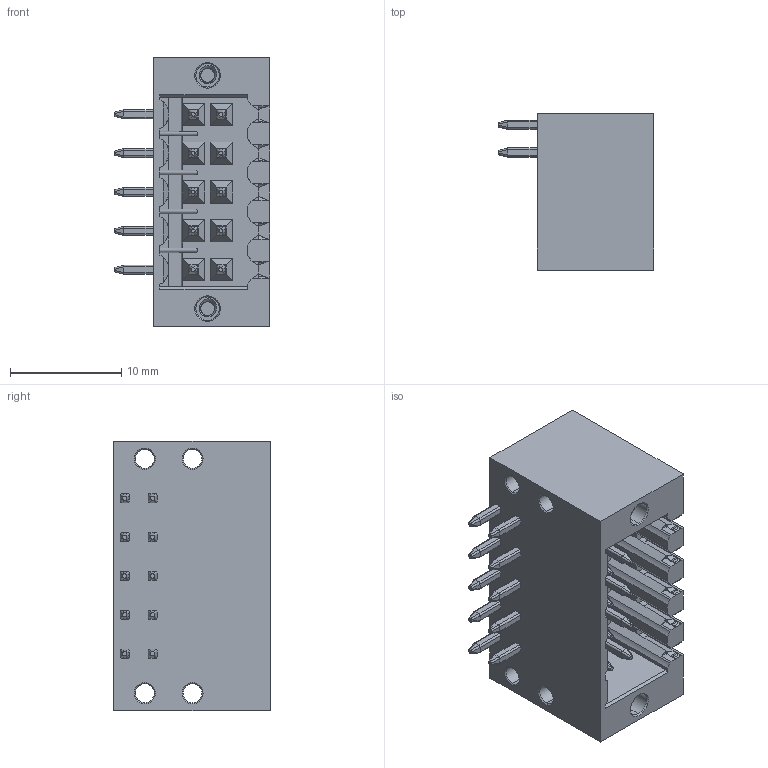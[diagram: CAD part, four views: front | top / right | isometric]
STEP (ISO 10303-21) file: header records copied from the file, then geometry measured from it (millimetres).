
FILE_DESCRIPTION (( 'STEP AP214' ), '1' );
FILE_NAME ('8930-C105141OCA10RB.STEP', '2017-11-09T05:12:58', ( 'ADMIN' ), ( '' ), 'SwSTEP 2.0', 'SolidWorks 2011', '' );
FILE_SCHEMA (( 'AUTOMOTIVE_DESIGN' ));
Length unit declared in the file: millimetre
Products named in the file (2): VX0812310000G10; 8930-C105141OCA10RB
Assembly tree (1 placements, depth 2):
  8930-C105141OCA10RB
    VX0812310000G10
Bounding box: 14 x 14.1 x 24.3 mm (x, y, z)
Volume: 2159 mm3; surface area: 3124.6 mm2
Topology: 2 solids, 33 shells, 1185 faces, 3109 edges, 2017 vertices
Faces by surface type: plane 862, cylinder 271, bspline 28, cone 24
Entity records: 39575 total; most frequent: CARTESIAN_POINT 12134, ORIENTED_EDGE 6218, DIRECTION 4680, EDGE_CURVE 3109, VECTOR 2098, LINE 2098, VERTEX_POINT 2017, AXIS2_PLACEMENT_3D 1291
